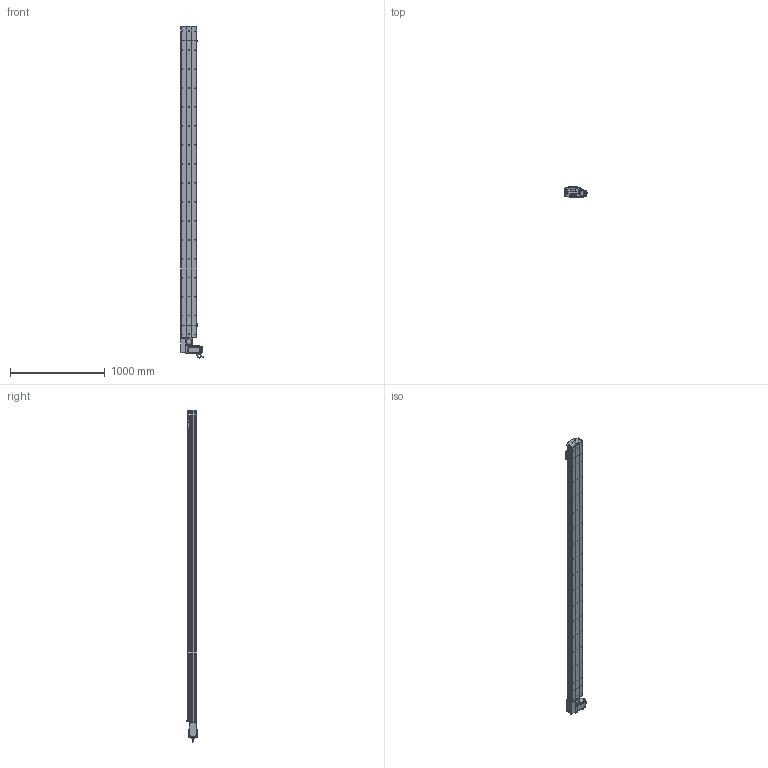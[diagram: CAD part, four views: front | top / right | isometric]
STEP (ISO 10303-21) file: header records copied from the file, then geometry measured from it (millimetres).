
FILE_DESCRIPTION (( 'STEP AP214' ), '1' );
FILE_NAME ('D17 TBN RH S3000.STEP', '2010-06-30T13:24:37', ( 'Conseil Régional Haute-Normandie' ), ( 'Conseil Régional Haute-Normandie' ), 'SwSTEP 2.0', 'SolidWorks 2010', '' );
FILE_SCHEMA (( 'AUTOMOTIVE_DESIGN' ));
Length unit declared in the file: millimetre
Products named in the file (40): corp D17B 3000_Default; couvercle D17B course L3000_Default; tete d''axe poulie D17B; Tail D17B_Default; Renvoi RH_Default; cache arbre D17_Default; Plaque racord D17_Default; vis M5 L70_Default; Vis M5 L16-2_Default; vis M5 L16_Default; Conecteur_Default; corpl head D17 _Default; Conecteur2_Default; Head RH D17B_Default; corpl tail D17B_Default; couvercle D17B head_Default; plaque de  bout head D17B RH_Default; Arbre+rail head D17B; avant 90BLDC125A-640; Moteur motionking 90BLDC125A-640; codeur 90BLDC125-640; corps 90BLDC125A-640; cache D17_Default; poulie head_Default; vis M5 L5_Default; couroie head D17_Default; guide D17; vis M5 L12_Default; vis M5 L8 90°_Default; couvercle D17B_Default; Chariot D17 TBN; chariot D17 TBN; vis M5 L25_Default; Couroie tail D17B_Default; poulie tail_Default; plaque de  bout tail D17B_Default; Rail D17B; Couroie+ rail D17 Course 3000 ; course 3000 D17B_Default; D17 TBN RH S3000
Assembly tree (66 placements, depth 4):
  D17 TBN RH S3000
    chariot D17 TBN
      Chariot D17 TBN
      guide D17  x2
    Head RH D17B_Default
      vis M5 L5_Default  x4
      vis M5 L12_Default  x8
      couroie head D17_Default
      cache D17_Default  x2
      plaque de  bout head D17B RH_Default
      Vis M5 L16-2_Default  x4
      vis M5 L16_Default  x2
      vis M5 L70_Default  x4
      Moteur motionking 90BLDC125A-640
        avant 90BLDC125A-640
        corps 90BLDC125A-640
        Conecteur2_Default
        Conecteur_Default
        codeur 90BLDC125-640
      vis M5 L25_Default  x2
      cache arbre D17_Default
      Renvoi RH_Default
      Arbre+rail head D17B
      corpl head D17 _Default
      Plaque racord D17_Default
      poulie head_Default
      couvercle D17B head_Default
    Tail D17B_Default
      vis M5 L12_Default  x4
      couvercle D17B_Default
      vis M5 L8 90°_Default  x2
      vis M5 L25_Default  x2
      plaque de  bout tail D17B_Default
      Rail D17B
      Couroie tail D17B_Default
      corpl tail D17B_Default
      poulie tail_Default
      tete d''axe poulie D17B
    course 3000 D17B_Default
      couvercle D17B course L3000_Default
      corp D17B 3000_Default
      Couroie+ rail D17 Course 3000 
Bounding box: 245.2 x 105.65 x 3500.95 mm (x, y, z)
Volume: 19318758.7 mm3; surface area: 5646831.5 mm2
Topology: 89 solids, 89 shells, 2651 faces, 6825 edges, 4398 vertices
Faces by surface type: plane 1533, cylinder 821, bspline 136, cone 80, torus 77, sphere 4
Entity records: 86411 total; most frequent: CARTESIAN_POINT 25599, ORIENTED_EDGE 10822, DIRECTION 10212, EDGE_CURVE 5411, VERTEX_POINT 3542, LINE 3522, VECTOR 3522, AXIS2_PLACEMENT_3D 3345
